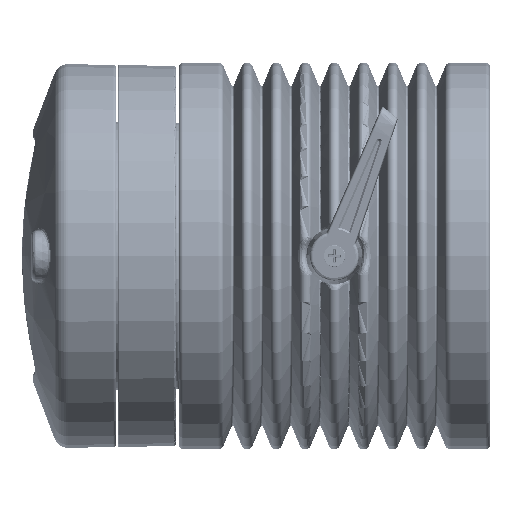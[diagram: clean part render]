
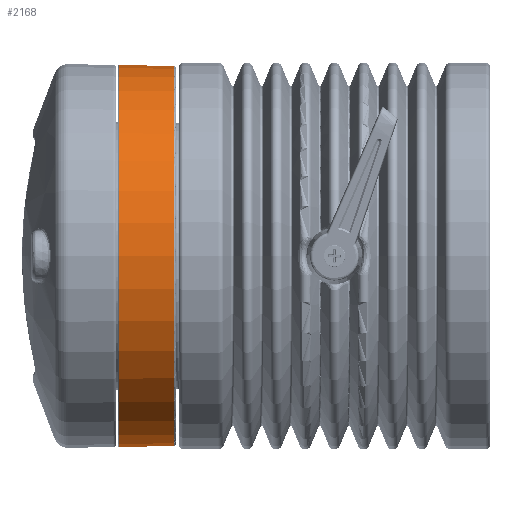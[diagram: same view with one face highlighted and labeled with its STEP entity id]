
A CAD part, left-side view. The second image highlights one B-rep face of the part: STEP entity #2168.
In plain terms, the highlighted conical face has half-angle 1 degrees and reference radius 65.325 mm.
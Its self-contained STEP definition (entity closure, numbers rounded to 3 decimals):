
#1699 = AXIS2_PLACEMENT_3D ( 'NONE', #45068, #32924, #53835 ) ;
#2168 = ADVANCED_FACE ( 'NONE', ( #29389 ), #26055, .T. ) ;
#14527 = ORIENTED_EDGE ( 'NONE', *, *, #127965, .T. ) ;
#18831 = CARTESIAN_POINT ( 'NONE',  ( 43.946, 59.106, 162.868 ) ) ;
#19998 = VECTOR ( 'NONE', #83152, 1000. ) ;
#20828 = EDGE_CURVE ( 'NONE', #136434, #132308, #49761, .T. ) ;
#21198 = EDGE_LOOP ( 'NONE', ( #77662, #31707, #127325, #14527 ) ) ;
#22928 = CARTESIAN_POINT ( 'NONE',  ( 43.946, 58.374, 162.868 ) ) ;
#25715 = DIRECTION ( 'NONE',  ( 0., 1., 0.017 ) ) ;
#26055 = CONICAL_SURFACE ( 'NONE', #129534, 65.325, 0.017 ) ;
#26708 = LINE ( 'NONE', #51971, #19998 ) ;
#29389 = FACE_OUTER_BOUND ( 'NONE', #21198, .T. ) ;
#29817 = EDGE_CURVE ( 'NONE', #136434, #90286, #26708, .T. ) ;
#31707 = ORIENTED_EDGE ( 'NONE', *, *, #20828, .T. ) ;
#32924 = DIRECTION ( 'NONE',  ( 0., -1., 0. ) ) ;
#38780 = AXIS2_PLACEMENT_3D ( 'NONE', #18831, #40350, #136735 ) ;
#40350 = DIRECTION ( 'NONE',  ( 0., 1., 0. ) ) ;
#45068 = CARTESIAN_POINT ( 'NONE',  ( 43.946, 77.768, 162.868 ) ) ;
#49761 = CIRCLE ( 'NONE', #38780, 65.338 ) ;
#51971 = CARTESIAN_POINT ( 'NONE',  ( 43.946, 58.374, 97.543 ) ) ;
#53835 = DIRECTION ( 'NONE',  ( 0., 0., 1. ) ) ;
#58389 = VERTEX_POINT ( 'NONE', #79929 ) ;
#77662 = ORIENTED_EDGE ( 'NONE', *, *, #29817, .F. ) ;
#79929 = CARTESIAN_POINT ( 'NONE',  ( 43.946, 77.768, 228.531 ) ) ;
#83152 = DIRECTION ( 'NONE',  ( 0., 1., -0.017 ) ) ;
#86433 = CARTESIAN_POINT ( 'NONE',  ( 43.946, 77.768, 97.205 ) ) ;
#87566 = CARTESIAN_POINT ( 'NONE',  ( 43.946, 59.106, 228.205 ) ) ;
#90286 = VERTEX_POINT ( 'NONE', #86433 ) ;
#91134 = EDGE_CURVE ( 'NONE', #132308, #58389, #135259, .T. ) ;
#91300 = CARTESIAN_POINT ( 'NONE',  ( 43.946, 58.374, 228.193 ) ) ;
#92837 = CARTESIAN_POINT ( 'NONE',  ( 43.946, 59.106, 97.53 ) ) ;
#103534 = VECTOR ( 'NONE', #25715, 1000. ) ;
#127325 = ORIENTED_EDGE ( 'NONE', *, *, #91134, .T. ) ;
#127965 = EDGE_CURVE ( 'NONE', #58389, #90286, #129978, .T. ) ;
#128208 = DIRECTION ( 'NONE',  ( 0., 1., 0. ) ) ;
#128650 = DIRECTION ( 'NONE',  ( 0., 0., 1. ) ) ;
#129534 = AXIS2_PLACEMENT_3D ( 'NONE', #22928, #128208, #128650 ) ;
#129978 = CIRCLE ( 'NONE', #1699, 65.663 ) ;
#132308 = VERTEX_POINT ( 'NONE', #87566 ) ;
#135259 = LINE ( 'NONE', #91300, #103534 ) ;
#136434 = VERTEX_POINT ( 'NONE', #92837 ) ;
#136735 = DIRECTION ( 'NONE',  ( 0., 0., -1. ) ) ;
